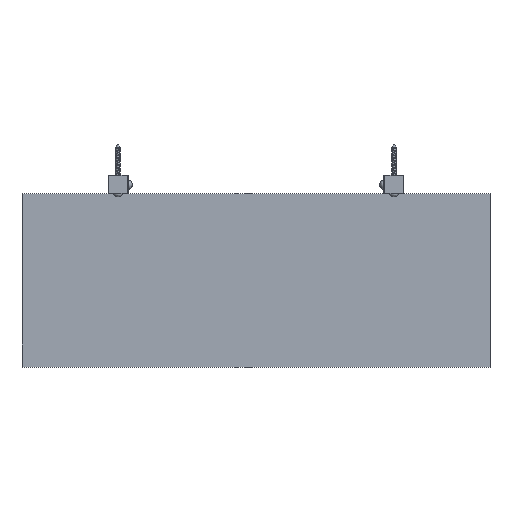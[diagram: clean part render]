
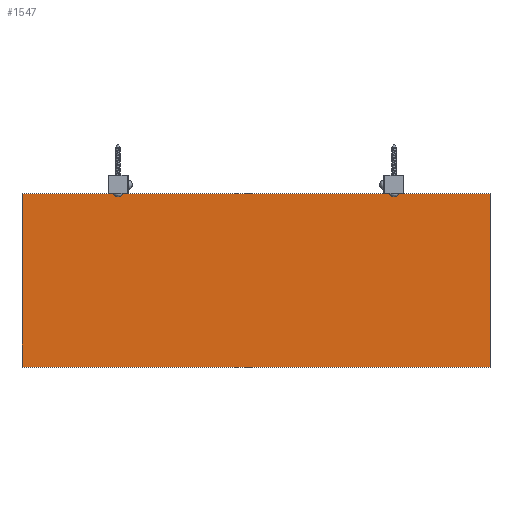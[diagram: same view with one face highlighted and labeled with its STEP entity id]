
A CAD part, top view. The second image highlights one B-rep face of the part: STEP entity #1547.
In plain terms, the highlighted planar face has unit normal (0, 0, 1).
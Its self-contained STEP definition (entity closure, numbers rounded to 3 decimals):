
#1547=ADVANCED_FACE('',(#1839),#5509,.T.);
#1839=FACE_OUTER_BOUND('',#2131,.T.);
#2131=EDGE_LOOP('',(#2454,#2455,#2456,#2457));
#2454=ORIENTED_EDGE('',*,*,#3680,.T.);
#2455=ORIENTED_EDGE('',*,*,#3684,.T.);
#2456=ORIENTED_EDGE('',*,*,#3687,.T.);
#2457=ORIENTED_EDGE('',*,*,#3689,.T.);
#3680=EDGE_CURVE('',#4915,#4914,#4446,.T.);
#3684=EDGE_CURVE('',#4914,#4917,#4450,.T.);
#3687=EDGE_CURVE('',#4917,#4919,#4453,.T.);
#3689=EDGE_CURVE('',#4919,#4915,#4455,.T.);
#4446=B_SPLINE_CURVE_WITH_KNOTS('',1,(#5989,#5990),.UNSPECIFIED.,.F.,.F.,
(2,2),(0.,520.),.UNSPECIFIED.);
#4450=B_SPLINE_CURVE_WITH_KNOTS('',1,(#5997,#5998),.UNSPECIFIED.,.F.,.F.,
(2,2),(520.,720.),.UNSPECIFIED.);
#4453=B_SPLINE_CURVE_WITH_KNOTS('',1,(#6003,#6004),.UNSPECIFIED.,.F.,.F.,
(2,2),(720.,1240.),.UNSPECIFIED.);
#4455=B_SPLINE_CURVE_WITH_KNOTS('',1,(#6007,#6008),.UNSPECIFIED.,.F.,.F.,
(2,2),(1240.,1440.),.UNSPECIFIED.);
#4914=VERTEX_POINT('',#5979);
#4915=VERTEX_POINT('',#5980);
#4917=VERTEX_POINT('',#5982);
#4919=VERTEX_POINT('',#5984);
#5509=PLANE('',#5675);
#5675=AXIS2_PLACEMENT_3D('',#5976,#5825,$);
#5825=DIRECTION('',(0.,0.,1.));
#5976=CARTESIAN_POINT('',(11441.918,4797.237,870.546));
#5979=CARTESIAN_POINT('',(11981.918,4797.237,870.546));
#5980=CARTESIAN_POINT('',(11441.918,4797.237,870.546));
#5982=CARTESIAN_POINT('',(11981.918,4997.237,870.546));
#5984=CARTESIAN_POINT('',(11441.918,4997.237,870.546));
#5989=CARTESIAN_POINT('',(11441.918,4797.237,870.546));
#5990=CARTESIAN_POINT('',(11981.918,4797.237,870.546));
#5997=CARTESIAN_POINT('',(11981.918,4797.237,870.546));
#5998=CARTESIAN_POINT('',(11981.918,4997.237,870.546));
#6003=CARTESIAN_POINT('',(11981.918,4997.237,870.546));
#6004=CARTESIAN_POINT('',(11441.918,4997.237,870.546));
#6007=CARTESIAN_POINT('',(11441.918,4997.237,870.546));
#6008=CARTESIAN_POINT('',(11441.918,4797.237,870.546));
